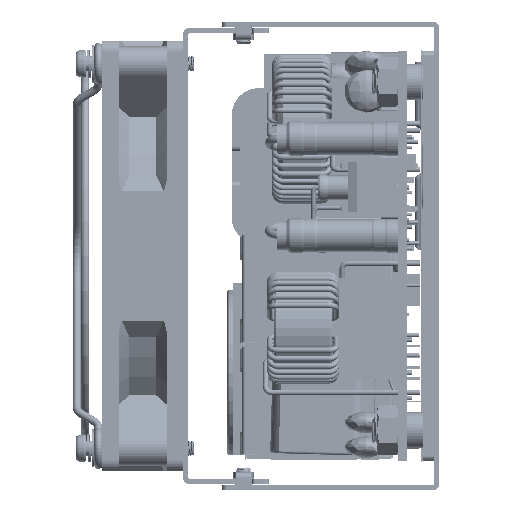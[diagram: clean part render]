
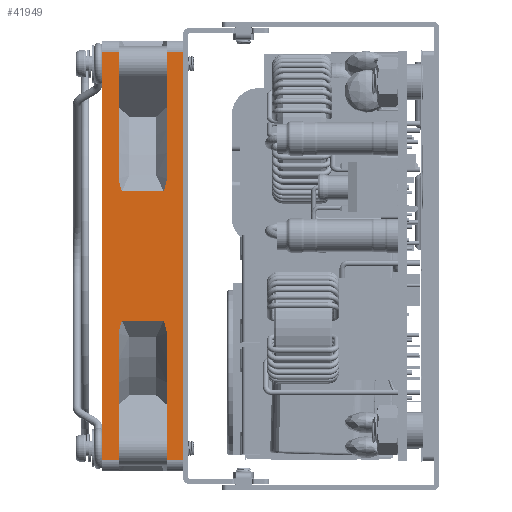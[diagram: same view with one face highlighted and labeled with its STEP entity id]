
A CAD part, left-side view. The second image highlights one B-rep face of the part: STEP entity #41949.
In plain terms, the highlighted planar face has unit normal (-1, 0, 0) as drawn and (0, 0, -1) by its records, which use the part's own axes.
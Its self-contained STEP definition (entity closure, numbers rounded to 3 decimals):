
#164 = AXIS2_PLACEMENT_3D ( 'NONE', #172040, #10733, #44441 ) ;
#633 = CARTESIAN_POINT ( 'NONE',  ( -12., 11.409, -40. ) ) ;
#5210 = LINE ( 'NONE', #128238, #58824 ) ;
#6743 = DIRECTION ( 'NONE',  ( 0., 1., 0. ) ) ;
#6961 = CARTESIAN_POINT ( 'NONE',  ( 12., 11.409, -40. ) ) ;
#8462 = CARTESIAN_POINT ( 'NONE',  ( -40., 3., -40. ) ) ;
#10733 = DIRECTION ( 'NONE',  ( 0., 0., 1. ) ) ;
#11103 = VERTEX_POINT ( 'NONE', #123742 ) ;
#12687 = LINE ( 'NONE', #88075, #219436 ) ;
#13360 = VECTOR ( 'NONE', #23828, 1000. ) ;
#19203 = CARTESIAN_POINT ( 'NONE',  ( -14.361, 12., -40. ) ) ;
#22760 = CARTESIAN_POINT ( 'NONE',  ( -40., 3., -40. ) ) ;
#23828 = DIRECTION ( 'NONE',  ( 1., 0., 0. ) ) ;
#23856 = CARTESIAN_POINT ( 'NONE',  ( -12.793, 3.409, -40. ) ) ;
#26028 = CARTESIAN_POINT ( 'NONE',  ( 38., 15., -40. ) ) ;
#28458 = CARTESIAN_POINT ( 'NONE',  ( 12., 3.591, -40. ) ) ;
#29508 = VERTEX_POINT ( 'NONE', #57936 ) ;
#31463 = VERTEX_POINT ( 'NONE', #148629 ) ;
#31588 = FACE_OUTER_BOUND ( 'NONE', #166654, .T. ) ;
#34447 = ORIENTED_EDGE ( 'NONE', *, *, #49437, .F. ) ;
#34924 = VERTEX_POINT ( 'NONE', #154760 ) ;
#36645 = CARTESIAN_POINT ( 'NONE',  ( -13.58, 11.789, -40. ) ) ;
#40932 = CARTESIAN_POINT ( 'NONE',  ( -40., 0., -40. ) ) ;
#41949 = ADVANCED_FACE ( 'NONE', ( #31588 ), #190564, .F. ) ;
#42471 = LINE ( 'NONE', #22760, #90578 ) ;
#42707 = CARTESIAN_POINT ( 'NONE',  ( -12., -30.142, -40. ) ) ;
#44441 = DIRECTION ( 'NONE',  ( 1., 0., 0. ) ) ;
#47091 = ORIENTED_EDGE ( 'NONE', *, *, #189042, .F. ) ;
#47670 = VECTOR ( 'NONE', #56564, 1000. ) ;
#49416 = B_SPLINE_CURVE_WITH_KNOTS ( 'NONE', 3,
 ( #106509, #69425, #208699, #71703 ),
 .UNSPECIFIED., .F., .F.,
 ( 4, 4 ),
 ( 0.017, 0.019 ),
 .UNSPECIFIED. ) ;
#49437 = EDGE_CURVE ( 'NONE', #205025, #196666, #112357, .T. ) ;
#49968 = CARTESIAN_POINT ( 'NONE',  ( 38., 0., -40. ) ) ;
#50778 = DIRECTION ( 'NONE',  ( 0., -1., 0. ) ) ;
#56564 = DIRECTION ( 'NONE',  ( 0., 1., 0. ) ) ;
#56668 = B_SPLINE_CURVE_WITH_KNOTS ( 'NONE', 3,
 ( #6961, #95165, #77783, #152003 ),
 .UNSPECIFIED., .F., .F.,
 ( 4, 4 ),
 ( 0.051, 0.053 ),
 .UNSPECIFIED. ) ;
#57936 = CARTESIAN_POINT ( 'NONE',  ( 38., 12., -40. ) ) ;
#58824 = VECTOR ( 'NONE', #129383, 1000. ) ;
#59868 = LINE ( 'NONE', #132906, #141146 ) ;
#60164 = VECTOR ( 'NONE', #6743, 1000. ) ;
#61364 = CARTESIAN_POINT ( 'NONE',  ( -40., 12., -40. ) ) ;
#67683 = EDGE_CURVE ( 'NONE', #31463, #117173, #42471, .T. ) ;
#69425 = CARTESIAN_POINT ( 'NONE',  ( 13.579, 3.211, -40. ) ) ;
#71703 = CARTESIAN_POINT ( 'NONE',  ( 12., 3.591, -40. ) ) ;
#71976 = VECTOR ( 'NONE', #111703, 1000. ) ;
#72072 = VECTOR ( 'NONE', #201812, 1000. ) ;
#77783 = CARTESIAN_POINT ( 'NONE',  ( 13.579, 11.789, -40. ) ) ;
#78816 = CARTESIAN_POINT ( 'NONE',  ( -38., 12., -40. ) ) ;
#79331 = CARTESIAN_POINT ( 'NONE',  ( -12., 11.409, -40. ) ) ;
#83077 = CARTESIAN_POINT ( 'NONE',  ( -12., 3.591, -40. ) ) ;
#88075 = CARTESIAN_POINT ( 'NONE',  ( -40., 15., -40. ) ) ;
#88198 = CARTESIAN_POINT ( 'NONE',  ( -14.361, 12., -40. ) ) ;
#90578 = VECTOR ( 'NONE', #162091, 1000. ) ;
#95165 = CARTESIAN_POINT ( 'NONE',  ( 12.792, 11.591, -40. ) ) ;
#95276 = EDGE_CURVE ( 'NONE', #117173, #113885, #49416, .T. ) ;
#100713 = CARTESIAN_POINT ( 'NONE',  ( 38., 15., -40. ) ) ;
#104781 = ORIENTED_EDGE ( 'NONE', *, *, #67683, .F. ) ;
#106456 = EDGE_CURVE ( 'NONE', #180828, #29508, #204794, .T. ) ;
#106509 = CARTESIAN_POINT ( 'NONE',  ( 14.361, 3., -40. ) ) ;
#107458 = CARTESIAN_POINT ( 'NONE',  ( -13.58, 3.211, -40. ) ) ;
#111075 = CARTESIAN_POINT ( 'NONE',  ( -38., 15., -40. ) ) ;
#111285 = LINE ( 'NONE', #61364, #72072 ) ;
#111399 = VERTEX_POINT ( 'NONE', #83077 ) ;
#111445 = CARTESIAN_POINT ( 'NONE',  ( -38., 15., -40. ) ) ;
#111703 = DIRECTION ( 'NONE',  ( -1., 0., 0. ) ) ;
#112223 = LINE ( 'NONE', #111075, #47670 ) ;
#112357 = B_SPLINE_CURVE_WITH_KNOTS ( 'NONE', 3,
 ( #19203, #36645, #143406, #633 ),
 .UNSPECIFIED., .F., .F.,
 ( 4, 4 ),
 ( 0.025, 0.027 ),
 .UNSPECIFIED. ) ;
#113885 = VERTEX_POINT ( 'NONE', #28458 ) ;
#117173 = VERTEX_POINT ( 'NONE', #183688 ) ;
#119869 = LINE ( 'NONE', #26028, #143353 ) ;
#120526 = EDGE_CURVE ( 'NONE', #11103, #29508, #119869, .T. ) ;
#123742 = CARTESIAN_POINT ( 'NONE',  ( 38., 15., -40. ) ) ;
#123758 = EDGE_CURVE ( 'NONE', #113885, #207525, #59868, .T. ) ;
#128238 = CARTESIAN_POINT ( 'NONE',  ( -38., 15., -40. ) ) ;
#129383 = DIRECTION ( 'NONE',  ( 0., 1., 0. ) ) ;
#130080 = B_SPLINE_CURVE_WITH_KNOTS ( 'NONE', 3,
 ( #143466, #23856, #107458, #160874 ),
 .UNSPECIFIED., .F., .F.,
 ( 4, 4 ),
 ( 0.043, 0.046 ),
 .UNSPECIFIED. ) ;
#130882 = LINE ( 'NONE', #42707, #60164 ) ;
#131496 = LINE ( 'NONE', #8462, #170606 ) ;
#132906 = CARTESIAN_POINT ( 'NONE',  ( 12., -30.142, -40. ) ) ;
#133993 = EDGE_CURVE ( 'NONE', #183302, #148113, #5210, .T. ) ;
#134339 = VERTEX_POINT ( 'NONE', #152315 ) ;
#134906 = DIRECTION ( 'NONE',  ( -1., 0., 0. ) ) ;
#141146 = VECTOR ( 'NONE', #203710, 1000. ) ;
#143353 = VECTOR ( 'NONE', #167629, 1000. ) ;
#143406 = CARTESIAN_POINT ( 'NONE',  ( -12.793, 11.591, -40. ) ) ;
#143466 = CARTESIAN_POINT ( 'NONE',  ( -12., 3.591, -40. ) ) ;
#145319 = ORIENTED_EDGE ( 'NONE', *, *, #120526, .T. ) ;
#148113 = VERTEX_POINT ( 'NONE', #111445 ) ;
#148629 = CARTESIAN_POINT ( 'NONE',  ( 38., 3., -40. ) ) ;
#150319 = EDGE_CURVE ( 'NONE', #34924, #134339, #112223, .T. ) ;
#152003 = CARTESIAN_POINT ( 'NONE',  ( 14.361, 12., -40. ) ) ;
#152315 = CARTESIAN_POINT ( 'NONE',  ( -38., 3., -40. ) ) ;
#153779 = ORIENTED_EDGE ( 'NONE', *, *, #223814, .F. ) ;
#153887 = ORIENTED_EDGE ( 'NONE', *, *, #159492, .T. ) ;
#154760 = CARTESIAN_POINT ( 'NONE',  ( -38., 0., -40. ) ) ;
#156268 = EDGE_CURVE ( 'NONE', #31463, #165426, #191210, .T. ) ;
#157842 = ORIENTED_EDGE ( 'NONE', *, *, #150319, .T. ) ;
#159492 = EDGE_CURVE ( 'NONE', #165426, #34924, #213913, .T. ) ;
#160874 = CARTESIAN_POINT ( 'NONE',  ( -14.361, 3., -40. ) ) ;
#162091 = DIRECTION ( 'NONE',  ( -1., 0., 0. ) ) ;
#165177 = ORIENTED_EDGE ( 'NONE', *, *, #133993, .T. ) ;
#165426 = VERTEX_POINT ( 'NONE', #49968 ) ;
#166654 = EDGE_LOOP ( 'NONE', ( #153887, #157842, #203220, #153779, #176599, #34447, #47091, #165177, #225807, #145319, #181536, #170909, #176489, #226102, #104781, #178748 ) ) ;
#166966 = CARTESIAN_POINT ( 'NONE',  ( -14.361, 3., -40. ) ) ;
#167629 = DIRECTION ( 'NONE',  ( 0., -1., 0. ) ) ;
#170606 = VECTOR ( 'NONE', #134906, 1000. ) ;
#170909 = ORIENTED_EDGE ( 'NONE', *, *, #228744, .F. ) ;
#172040 = CARTESIAN_POINT ( 'NONE',  ( -40., 15., -40. ) ) ;
#176479 = EDGE_CURVE ( 'NONE', #111399, #196666, #130882, .T. ) ;
#176489 = ORIENTED_EDGE ( 'NONE', *, *, #123758, .F. ) ;
#176599 = ORIENTED_EDGE ( 'NONE', *, *, #176479, .T. ) ;
#178748 = ORIENTED_EDGE ( 'NONE', *, *, #156268, .T. ) ;
#180828 = VERTEX_POINT ( 'NONE', #185491 ) ;
#181536 = ORIENTED_EDGE ( 'NONE', *, *, #106456, .F. ) ;
#183302 = VERTEX_POINT ( 'NONE', #78816 ) ;
#183688 = CARTESIAN_POINT ( 'NONE',  ( 14.361, 3., -40. ) ) ;
#185491 = CARTESIAN_POINT ( 'NONE',  ( 14.361, 12., -40. ) ) ;
#187921 = VERTEX_POINT ( 'NONE', #166966 ) ;
#189042 = EDGE_CURVE ( 'NONE', #183302, #205025, #111285, .T. ) ;
#190564 = PLANE ( 'NONE',  #164 ) ;
#191210 = LINE ( 'NONE', #100713, #226877 ) ;
#191921 = CARTESIAN_POINT ( 'NONE',  ( 12., 11.409, -40. ) ) ;
#193674 = DIRECTION ( 'NONE',  ( -1., 0., 0. ) ) ;
#196666 = VERTEX_POINT ( 'NONE', #79331 ) ;
#201812 = DIRECTION ( 'NONE',  ( 1., 0., 0. ) ) ;
#202532 = CARTESIAN_POINT ( 'NONE',  ( -40., 12., -40. ) ) ;
#203220 = ORIENTED_EDGE ( 'NONE', *, *, #225707, .F. ) ;
#203710 = DIRECTION ( 'NONE',  ( 0., 1., 0. ) ) ;
#204794 = LINE ( 'NONE', #202532, #13360 ) ;
#205025 = VERTEX_POINT ( 'NONE', #88198 ) ;
#207525 = VERTEX_POINT ( 'NONE', #191921 ) ;
#208699 = CARTESIAN_POINT ( 'NONE',  ( 12.792, 3.409, -40. ) ) ;
#213913 = LINE ( 'NONE', #40932, #71976 ) ;
#219436 = VECTOR ( 'NONE', #193674, 1000. ) ;
#222119 = EDGE_CURVE ( 'NONE', #11103, #148113, #12687, .T. ) ;
#223814 = EDGE_CURVE ( 'NONE', #111399, #187921, #130080, .T. ) ;
#225707 = EDGE_CURVE ( 'NONE', #187921, #134339, #131496, .T. ) ;
#225807 = ORIENTED_EDGE ( 'NONE', *, *, #222119, .F. ) ;
#226102 = ORIENTED_EDGE ( 'NONE', *, *, #95276, .F. ) ;
#226877 = VECTOR ( 'NONE', #50778, 1000. ) ;
#228744 = EDGE_CURVE ( 'NONE', #207525, #180828, #56668, .T. ) ;
